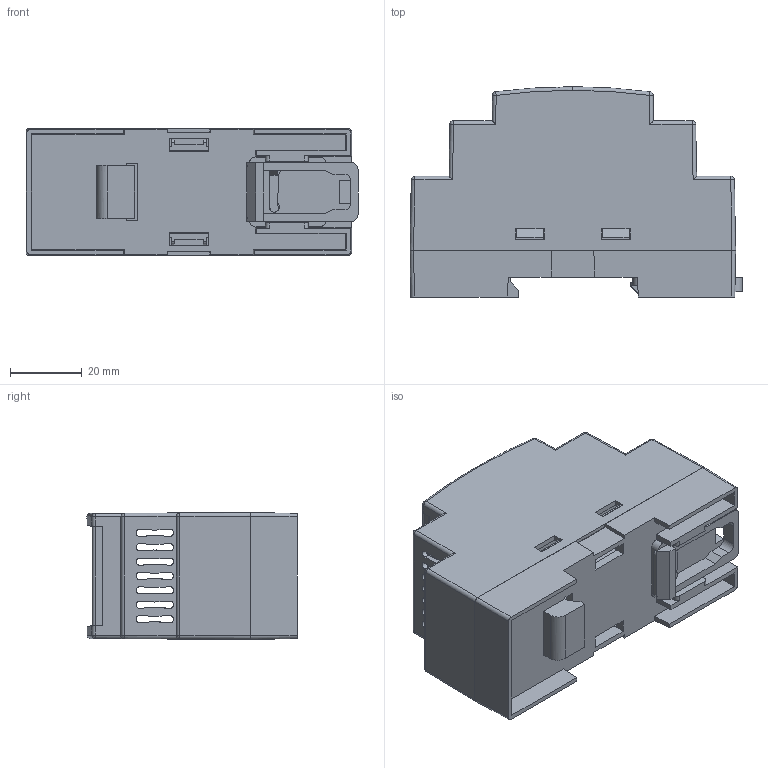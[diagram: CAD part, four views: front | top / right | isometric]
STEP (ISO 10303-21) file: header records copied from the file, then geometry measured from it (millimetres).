
FILE_DESCRIPTION (( 'STEP AP203' ), '1' );
FILE_NAME ('RT-202-B.STEP', '2022-10-11T12:17:23', ( '' ), ( '' ), 'SwSTEP 2.0', 'SolidWorks 2021', '' );
FILE_SCHEMA (( 'CONFIG_CONTROL_DESIGN' ));
Length unit declared in the file: millimetre
Products named in the file (5): A-102; RT-202-P-2; RT-202-B; RT-202-P-5; RT-202-P-1_B
Assembly tree (4 placements, depth 2):
  RT-202-B
    RT-202-P-2
    RT-202-P-1_B
    A-102
    RT-202-P-5
Bounding box: 92.38 x 58.5 x 35.3 mm (x, y, z)
Volume: 34465.5 mm3; surface area: 41390.9 mm2
Topology: 4 solids, 4 shells, 569 faces, 1633 edges, 1068 vertices
Faces by surface type: plane 329, cylinder 203, cone 14, sphere 12, bspline 11
Entity records: 19377 total; most frequent: CARTESIAN_POINT 4984, ORIENTED_EDGE 3250, DIRECTION 2475, EDGE_CURVE 1625, LINE 1129, VECTOR 1129, VERTEX_POINT 1068, AXIS2_PLACEMENT_3D 673
